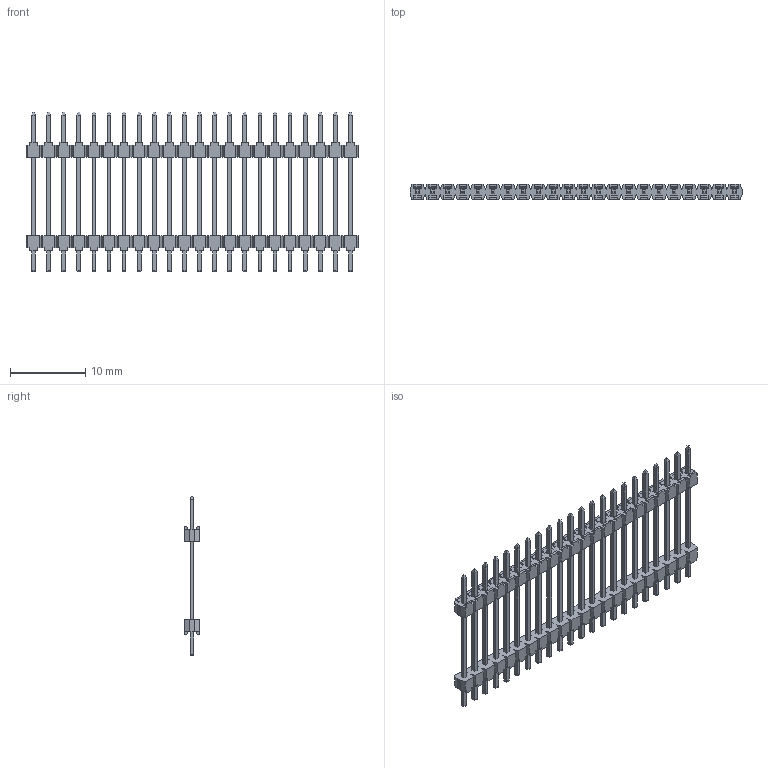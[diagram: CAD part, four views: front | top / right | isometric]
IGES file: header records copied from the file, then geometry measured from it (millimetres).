
Global section: file name: N:\GOLF_VI_2mm_UGII\9514XX_901XX06_AR\951422-9012506-AR.igs; native system: NX V3.0; preprocessor: UGS NX IGES V4.0; date: 20070314.114049; units: millimetre
Bounding box: 44 x 2 x 21.2 mm (x, y, z)
Surface area: 1596.3 mm2 (no closed solid volume)
Topology: 0 solids, 0 shells, 1108 faces, 6009 edges, 6009 vertices
Faces by surface type: bspline 1108
